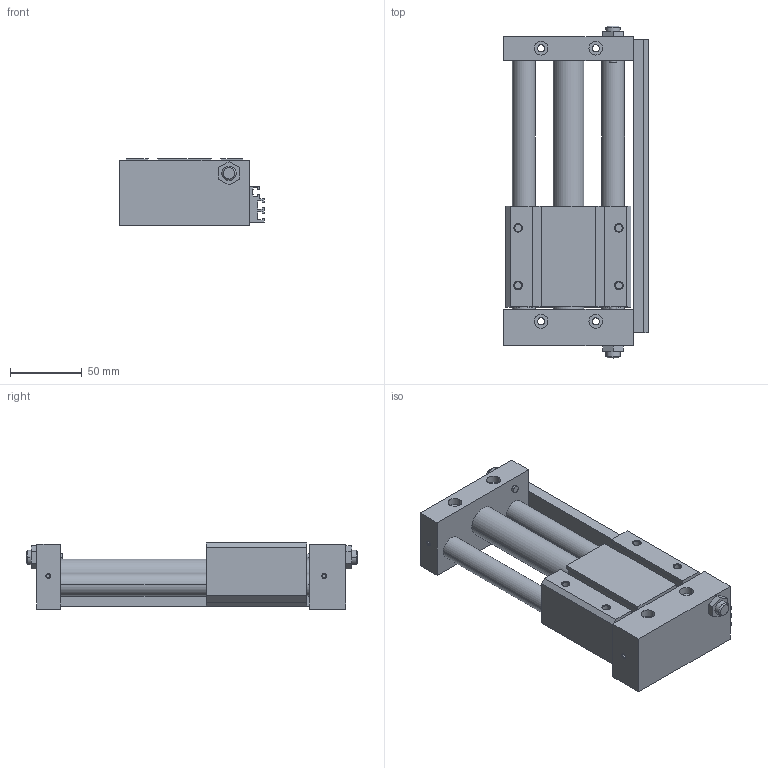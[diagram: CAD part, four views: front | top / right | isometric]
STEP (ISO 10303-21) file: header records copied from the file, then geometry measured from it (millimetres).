
FILE_DESCRIPTION((''),'2;1');
FILE_NAME('C:\Documents and Settings\Administrator\桌面\GYS\GYS20\GYSR20X100.stp','2012-03-06T13:57:41',('Administrator'),(''),'Autodesk Inventor 8','Autodesk Inventor 8','');
FILE_SCHEMA(('AUTOMOTIVE_DESIGN { 1 0 10303 214 1 1 1 1 }'));
Length unit declared in the file: millimetre
Products named in the file (3): GYSR20X100; GYS20X100; GYS20160X100
Assembly tree (2 placements, depth 2):
  GYSR20X100
    GYS20X100
    GYS20160X100
Bounding box: 100.5 x 231 x 46 mm (x, y, z)
Volume: 526354.8 mm3; surface area: 98315.1 mm2
Topology: 2 solids, 2 shells, 243 faces, 626 edges, 408 vertices
Faces by surface type: plane 133, cylinder 76, cone 28, bspline 6
Entity records: 7564 total; most frequent: CARTESIAN_POINT 1356, DIRECTION 1306, ORIENTED_EDGE 1252, EDGE_CURVE 626, AXIS2_PLACEMENT_3D 438, VECTOR 430, LINE 430, VERTEX_POINT 408
